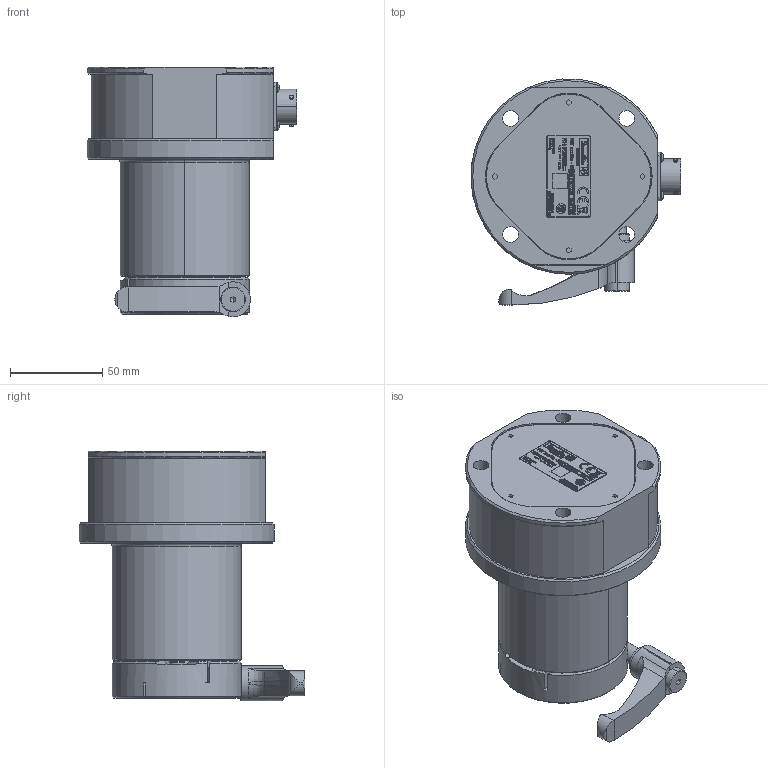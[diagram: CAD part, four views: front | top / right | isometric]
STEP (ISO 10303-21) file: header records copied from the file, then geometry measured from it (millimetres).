
FILE_DESCRIPTION((''),'2;1');
FILE_NAME('6159352260','2018-01-15T',('greextsd'),(''),'CREO PARAMETRIC BY PTC INC, 2017170','CREO PARAMETRIC BY PTC INC, 2017170','');
FILE_SCHEMA(('AUTOMOTIVE_DESIGN { 1 0 10303 214 1 1 1 1 }'));
Length unit declared in the file: millimetre
Products named in the file (1): 6159352260
Bounding box: 113.85 x 122.39 x 135.5 mm (x, y, z)
Volume: 512543.7 mm3; surface area: 119890.3 mm2
Topology: 1 solids, 29 shells, 4339 faces, 11745 edges, 7712 vertices
Faces by surface type: plane 1977, extrusion 1534, cylinder 432, cone 341, bspline 24, torus 23, sphere 8
Entity records: 180229 total; most frequent: CARTESIAN_POINT 42665, ORIENTED_EDGE 23392, DIRECTION 16221, EDGE_CURVE 11718, VECTOR 8277, VERTEX_POINT 7712, LINE 6743, PRESENTATION_STYLE_ASSIGNMENT 5875
